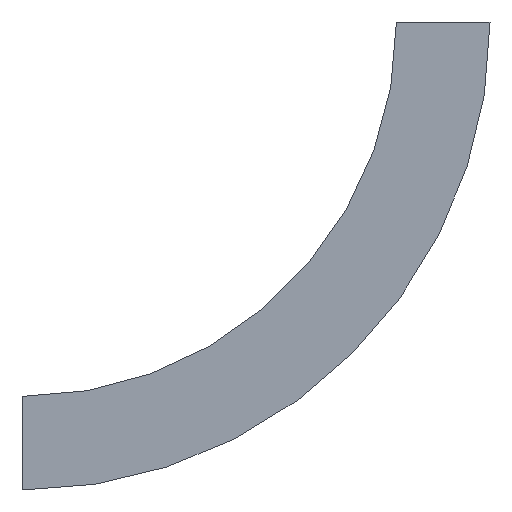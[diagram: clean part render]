
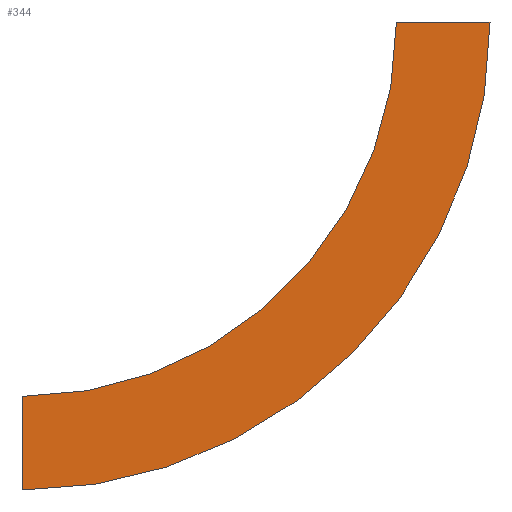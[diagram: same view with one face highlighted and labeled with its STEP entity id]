
A CAD part, left-side view. The second image highlights one B-rep face of the part: STEP entity #344.
In plain terms, the highlighted planar face has unit normal (-1, 0, 0) as drawn and (1, 0, 0) by its records, which use the part's own axes.
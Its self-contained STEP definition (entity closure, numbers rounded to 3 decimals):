
#19 = EDGE_CURVE ( 'NONE', #118, #468, #542, .T. ) ;
#20 = DIRECTION ( 'NONE',  ( 0., -1., 0. ) ) ;
#66 = DIRECTION ( 'NONE',  ( 1., 0., 0. ) ) ;
#76 = DIRECTION ( 'NONE',  ( -1., 0., 0. ) ) ;
#81 = CARTESIAN_POINT ( 'NONE',  ( 0., 300., 0. ) ) ;
#118 = VERTEX_POINT ( 'NONE', #558 ) ;
#124 = CARTESIAN_POINT ( 'NONE',  ( 0., -75., 0. ) ) ;
#143 = VECTOR ( 'NONE', #472, 1000. ) ;
#157 = VERTEX_POINT ( 'NONE', #296 ) ;
#195 = AXIS2_PLACEMENT_3D ( 'NONE', #124, #76, #262 ) ;
#197 = ORIENTED_EDGE ( 'NONE', *, *, #19, .F. ) ;
#199 = CARTESIAN_POINT ( 'NONE',  ( 0., 300., 0. ) ) ;
#202 = CARTESIAN_POINT ( 'NONE',  ( 0., -75., 0. ) ) ;
#212 = ORIENTED_EDGE ( 'NONE', *, *, #317, .T. ) ;
#239 = EDGE_CURVE ( 'NONE', #157, #521, #347, .T. ) ;
#262 = DIRECTION ( 'NONE',  ( 0., 0., 1. ) ) ;
#296 = CARTESIAN_POINT ( 'NONE',  ( 0., -75., 0. ) ) ;
#297 = LINE ( 'NONE', #202, #373 ) ;
#303 = CARTESIAN_POINT ( 'NONE',  ( 0., 300., -375. ) ) ;
#317 = EDGE_CURVE ( 'NONE', #521, #468, #438, .T. ) ;
#332 = ORIENTED_EDGE ( 'NONE', *, *, #239, .T. ) ;
#344 = ADVANCED_FACE ( 'NONE', ( #352 ), #520, .F. ) ;
#347 = CIRCLE ( 'NONE', #443, 375. ) ;
#352 = FACE_OUTER_BOUND ( 'NONE', #380, .T. ) ;
#363 = DIRECTION ( 'NONE',  ( 1., 0., 0. ) ) ;
#373 = VECTOR ( 'NONE', #456, 1000. ) ;
#380 = EDGE_LOOP ( 'NONE', ( #197, #537, #332, #212 ) ) ;
#400 = CARTESIAN_POINT ( 'NONE',  ( 0., 300., -375. ) ) ;
#403 = AXIS2_PLACEMENT_3D ( 'NONE', #199, #66, #20 ) ;
#438 = LINE ( 'NONE', #303, #143 ) ;
#443 = AXIS2_PLACEMENT_3D ( 'NONE', #81, #363, #477 ) ;
#456 = DIRECTION ( 'NONE',  ( 0., 1., 0. ) ) ;
#468 = VERTEX_POINT ( 'NONE', #527 ) ;
#472 = DIRECTION ( 'NONE',  ( 0., 0., 1. ) ) ;
#477 = DIRECTION ( 'NONE',  ( 0., -1., 0. ) ) ;
#520 = PLANE ( 'NONE',  #195 ) ;
#521 = VERTEX_POINT ( 'NONE', #400 ) ;
#527 = CARTESIAN_POINT ( 'NONE',  ( 0., 300., -300. ) ) ;
#537 = ORIENTED_EDGE ( 'NONE', *, *, #561, .F. ) ;
#542 = CIRCLE ( 'NONE', #403, 300. ) ;
#558 = CARTESIAN_POINT ( 'NONE',  ( 0., 0., 0. ) ) ;
#561 = EDGE_CURVE ( 'NONE', #157, #118, #297, .T. ) ;
